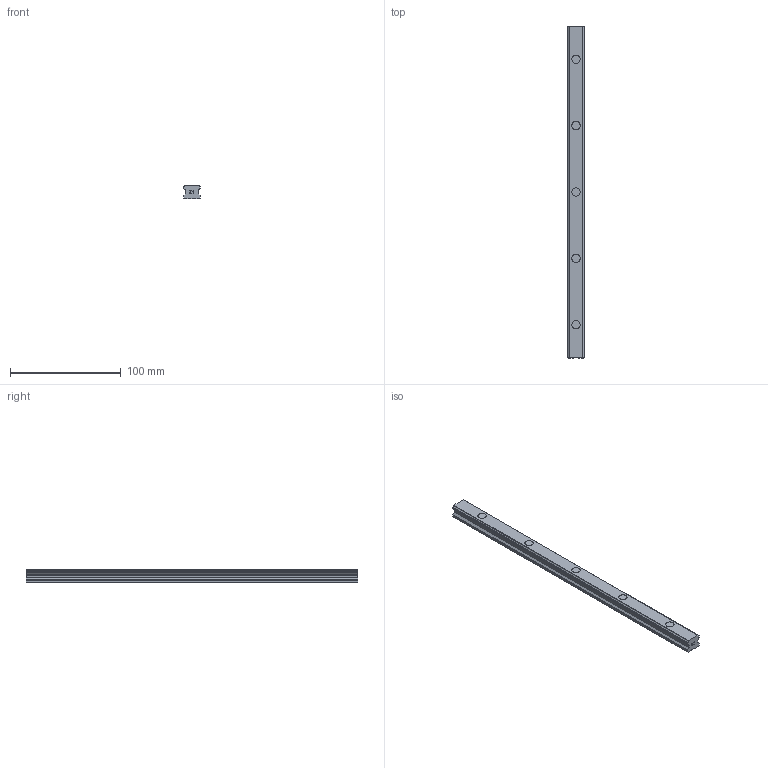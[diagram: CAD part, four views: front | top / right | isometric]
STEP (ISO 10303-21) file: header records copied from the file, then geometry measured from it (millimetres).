
FILE_DESCRIPTION(('no description'),'unknown implementation level');
FILE_NAME('EGR15U_300_H_2.stp',' ',('HIWIN GmbH'),('CADClick - KiM GmbH - www.kimweb.de'),'unknown preprocess','ACIS','unknown authorization');
FILE_SCHEMA(('CONFIG_CONTROL_DESIGN'));
Length unit declared in the file: millimetre
Products named in the file (1): 1
Bounding box: 15 x 300 x 12.5 mm (x, y, z)
Volume: 47610.6 mm3; surface area: 18577.2 mm2
Topology: 1 solids, 1 shells, 153 faces, 411 edges, 274 vertices
Faces by surface type: plane 105, cylinder 48
Entity records: 4845 total; most frequent: CARTESIAN_POINT 839, DIRECTION 835, ORIENTED_EDGE 822, EDGE_CURVE 411, LINE 295, VECTOR 295, VERTEX_POINT 274, AXIS2_PLACEMENT_3D 270
